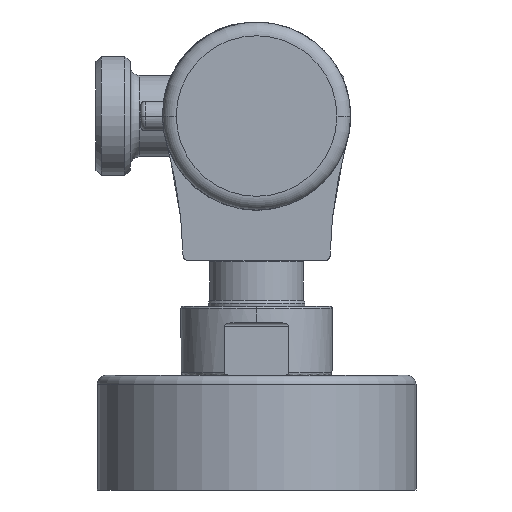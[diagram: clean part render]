
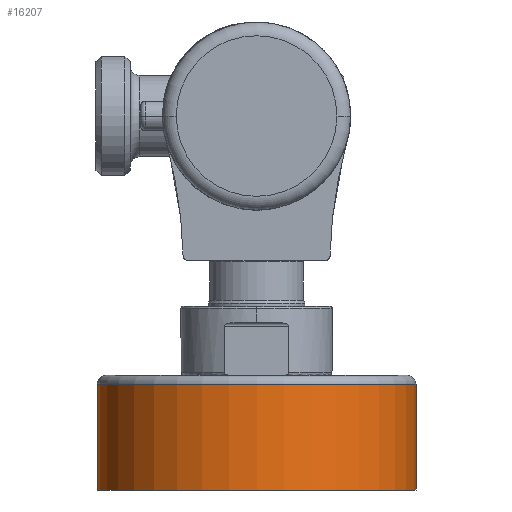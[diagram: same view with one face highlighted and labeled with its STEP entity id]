
A CAD part, left-side view. The second image highlights one B-rep face of the part: STEP entity #16207.
In plain terms, the highlighted cylindrical face has radius 34.75 mm (diameter 69.5 mm), a partial arc.
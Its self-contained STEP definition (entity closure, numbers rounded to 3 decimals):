
#6561=CARTESIAN_POINT('',(-75.,0.,-81.5));
#6562=DIRECTION('',(0.,0.,1.));
#6563=DIRECTION('',(0.,1.,0.));
#6564=AXIS2_PLACEMENT_3D('',#6561,#6562,#6563);
#6576=DIRECTION('',(0.,0.,1.));
#6577=VECTOR('',#6576,23.);
#6578=CARTESIAN_POINT('',(-75.,-34.75,-81.5));
#6579=LINE('',#6578,#6577);
#6580=DIRECTION('',(0.,0.,1.));
#6581=VECTOR('',#6580,23.);
#6582=CARTESIAN_POINT('',(-75.,34.75,-81.5));
#6583=LINE('',#6582,#6581);
#6589=CARTESIAN_POINT('',(-75.,0.,-58.5));
#6590=DIRECTION('',(0.,0.,-1.));
#6591=DIRECTION('',(0.,-1.,0.));
#6592=AXIS2_PLACEMENT_3D('',#6589,#6590,#6591);
#8577=CARTESIAN_POINT('',(-75.,34.75,-58.5));
#8579=VERTEX_POINT('',#8577);
#8583=CARTESIAN_POINT('',(-75.,-34.75,-58.5));
#8584=VERTEX_POINT('',#8583);
#8585=CARTESIAN_POINT('',(-75.,34.75,-81.5));
#8586=VERTEX_POINT('',#8585);
#8587=CARTESIAN_POINT('',(-75.,-34.75,-81.5));
#8588=VERTEX_POINT('',#8587);
#16195=CARTESIAN_POINT('',(-75.,0.,-82.75));
#16196=DIRECTION('',(0.,0.,1.));
#16197=DIRECTION('',(0.,-1.,0.));
#16198=AXIS2_PLACEMENT_3D('',#16195,#16196,#16197);
#16199=CYLINDRICAL_SURFACE('',#16198,34.75);
#16200=ORIENTED_EDGE('',*,*,#16185,.T.);
#16202=ORIENTED_EDGE('',*,*,#16201,.F.);
#16203=ORIENTED_EDGE('',*,*,#16188,.F.);
#16204=ORIENTED_EDGE('',*,*,#16171,.F.);
#16205=EDGE_LOOP('',(#16200,#16202,#16203,#16204));
#16206=FACE_OUTER_BOUND('',#16205,.F.);
#16207=ADVANCED_FACE('',(#16206),#16199,.T.);
#6565=CIRCLE('',#6564,34.75);
#6593=CIRCLE('',#6592,34.75);
#16171=EDGE_CURVE('',#8586,#8588,#6565,.T.);
#16185=EDGE_CURVE('',#8586,#8579,#6583,.T.);
#16188=EDGE_CURVE('',#8588,#8584,#6579,.T.);
#16201=EDGE_CURVE('',#8584,#8579,#6593,.T.);
